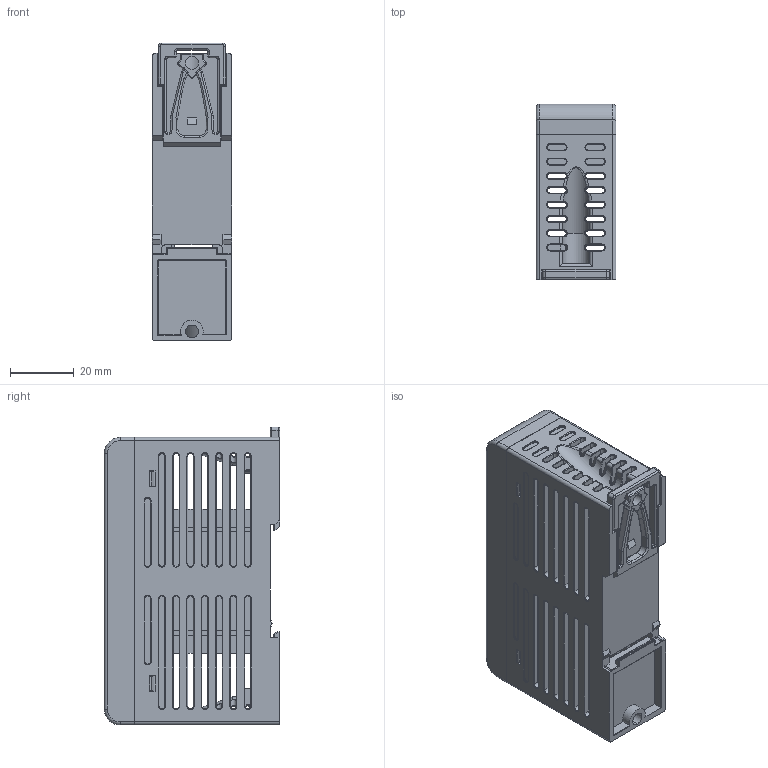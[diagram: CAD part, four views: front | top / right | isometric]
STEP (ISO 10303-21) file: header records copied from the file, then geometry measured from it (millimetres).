
FILE_DESCRIPTION((''),'2;1');
FILE_NAME('B1-CM_ASM','2021-06-09T',('Jacky Chang'),('ME Department of NTUST'),'PRO/ENGINEER BY PARAMETRIC TECHNOLOGY CORPORATION, 2014200','PRO/ENGINEER BY PARAMETRIC TECHNOLOGY CORPORATION, 2014200','');
FILE_SCHEMA(('CONFIG_CONTROL_DESIGN','GEOMETRIC_VALIDATION_PROPERTIES_MIM'));
Products named in the file (5): B1-55E_UP_COVER; B1-CM_DOWN_COVER; JOIN; B1-CM_DOWN_COVER_ASM; B1-CM_ASM
Assembly tree (4 placements, depth 3):
  B1-CM_ASM
    B1-55E_UP_COVER
    B1-CM_DOWN_COVER_ASM
      B1-CM_DOWN_COVER
      JOIN
Bounding box: 25 x 54.9 x 93.25 mm (x, y, z)
Volume: 26629.6 mm3; surface area: 36372.6 mm2
Topology: 3 solids, 3 shells, 1398 faces, 3757 edges, 2308 vertices
Faces by surface type: plane 626, cylinder 493, torus 164, bspline 92, sphere 23
Entity records: 61655 total; most frequent: CARTESIAN_POINT 15274, ORIENTED_EDGE 7496, DIRECTION 7114, PRESENTATION_STYLE_ASSIGNMENT 3752, STYLED_ITEM 3751, CURVE_STYLE 3748, EDGE_CURVE 3748, AXIS2_PLACEMENT_3D 2401
